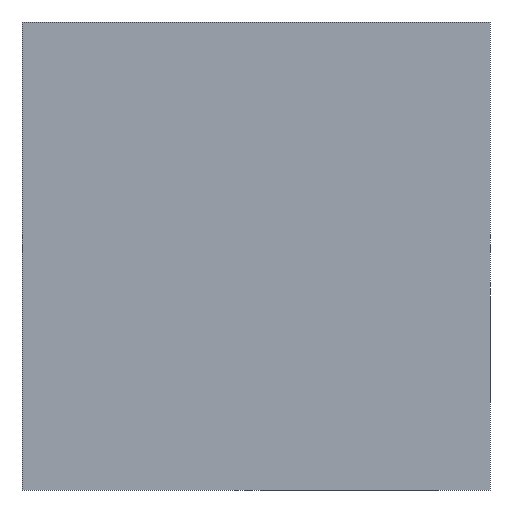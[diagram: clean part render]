
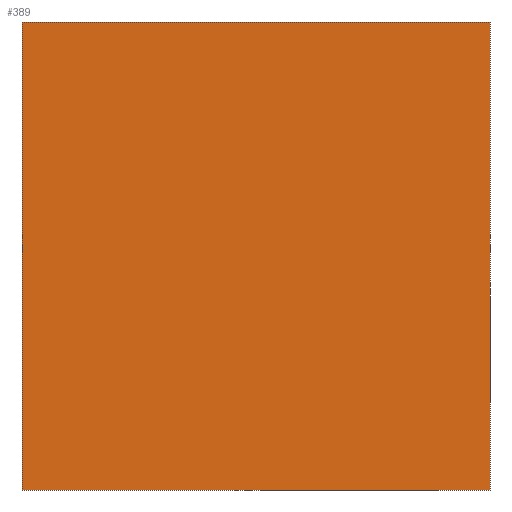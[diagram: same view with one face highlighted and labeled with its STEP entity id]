
A CAD part, front view. The second image highlights one B-rep face of the part: STEP entity #389.
In plain terms, the highlighted planar face has unit normal (0, -1, 0).
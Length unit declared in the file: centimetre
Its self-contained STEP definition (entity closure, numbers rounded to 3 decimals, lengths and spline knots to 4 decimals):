
#55 = CARTESIAN_POINT ( 'NONE',  ( 1000., 0., 0. ) ) ;
#111 = LINE ( 'NONE', #361, #503 ) ;
#113 = VECTOR ( 'NONE', #344, 100. ) ;
#142 = VERTEX_POINT ( 'NONE', #184 ) ;
#153 = CARTESIAN_POINT ( 'NONE',  ( 0., 0., 1000. ) ) ;
#156 = VERTEX_POINT ( 'NONE', #512 ) ;
#169 = CARTESIAN_POINT ( 'NONE',  ( 1000., 0., 1000. ) ) ;
#175 = DIRECTION ( 'NONE',  ( 0., 1., 0. ) ) ;
#184 = CARTESIAN_POINT ( 'NONE',  ( 1000., 0., 1000. ) ) ;
#205 = EDGE_CURVE ( 'NONE', #156, #424, #413, .T. ) ;
#214 = VECTOR ( 'NONE', #327, 100. ) ;
#218 = DIRECTION ( 'NONE',  ( 0., 0., -1. ) ) ;
#228 = EDGE_CURVE ( 'NONE', #142, #540, #561, .T. ) ;
#289 = EDGE_CURVE ( 'NONE', #424, #540, #111, .T. ) ;
#299 = EDGE_LOOP ( 'NONE', ( #596, #491, #340, #530 ) ) ;
#314 = DIRECTION ( 'NONE',  ( 1., 0., 0. ) ) ;
#327 = DIRECTION ( 'NONE',  ( 0., 0., -1. ) ) ;
#334 = PLANE ( 'NONE',  #487 ) ;
#340 = ORIENTED_EDGE ( 'NONE', *, *, #515, .F. ) ;
#344 = DIRECTION ( 'NONE',  ( 1., 0., 0. ) ) ;
#361 = CARTESIAN_POINT ( 'NONE',  ( 0., 0., 0. ) ) ;
#378 = FACE_OUTER_BOUND ( 'NONE', #299, .T. ) ;
#389 = ADVANCED_FACE ( 'NONE', ( #378 ), #334, .F. ) ;
#411 = VECTOR ( 'NONE', #218, 100. ) ;
#413 = LINE ( 'NONE', #571, #214 ) ;
#414 = DIRECTION ( 'NONE',  ( 0., 0., 1. ) ) ;
#424 = VERTEX_POINT ( 'NONE', #473 ) ;
#473 = CARTESIAN_POINT ( 'NONE',  ( 0., 0., 0. ) ) ;
#487 = AXIS2_PLACEMENT_3D ( 'NONE', #636, #175, #414 ) ;
#491 = ORIENTED_EDGE ( 'NONE', *, *, #228, .F. ) ;
#503 = VECTOR ( 'NONE', #314, 100. ) ;
#512 = CARTESIAN_POINT ( 'NONE',  ( 0., 0., 1000. ) ) ;
#515 = EDGE_CURVE ( 'NONE', #156, #142, #594, .T. ) ;
#530 = ORIENTED_EDGE ( 'NONE', *, *, #205, .T. ) ;
#540 = VERTEX_POINT ( 'NONE', #55 ) ;
#561 = LINE ( 'NONE', #169, #411 ) ;
#571 = CARTESIAN_POINT ( 'NONE',  ( 0., 0., 1000. ) ) ;
#594 = LINE ( 'NONE', #153, #113 ) ;
#596 = ORIENTED_EDGE ( 'NONE', *, *, #289, .T. ) ;
#636 = CARTESIAN_POINT ( 'NONE',  ( 0., 0., 1000. ) ) ;
